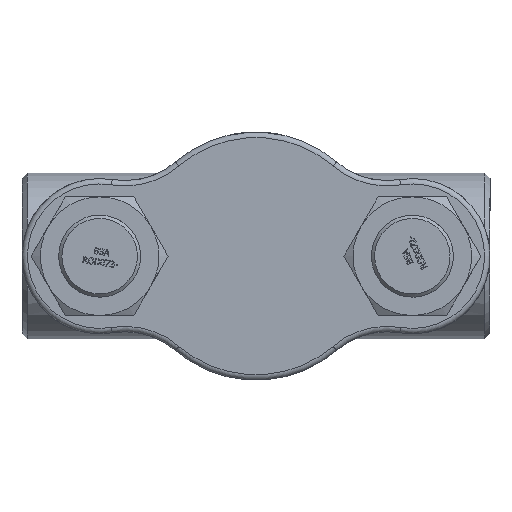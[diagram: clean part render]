
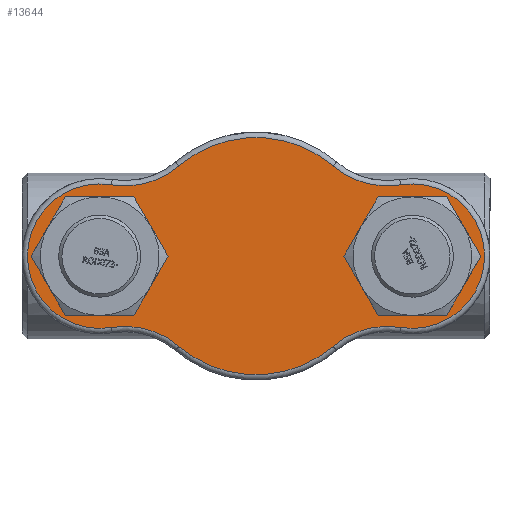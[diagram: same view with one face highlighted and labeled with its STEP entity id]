
A CAD part, front view. The second image highlights one B-rep face of the part: STEP entity #13644.
In plain terms, the highlighted planar face has unit normal (0, -1, 0) as drawn and (0, 0, -1) by its records, which use the part's own axes.
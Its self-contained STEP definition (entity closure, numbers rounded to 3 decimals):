
#3564=PLANE('',#14533);
#3953=FACE_BOUND('',#4844,.T.);
#3954=FACE_BOUND('',#4845,.T.);
#4043=FACE_OUTER_BOUND('',#4843,.T.);
#4843=EDGE_LOOP('',(#9415,#9416,#9417,#9418,#9419,#9420,#9421,#9422));
#4844=EDGE_LOOP('',(#9423));
#4845=EDGE_LOOP('',(#9424));
#5731=CIRCLE('',#14532,45.);
#5732=CIRCLE('',#14534,67.);
#5733=CIRCLE('',#14535,77.);
#5734=CIRCLE('',#14536,110.);
#5735=CIRCLE('',#14537,77.);
#5736=CIRCLE('',#14538,67.);
#5737=CIRCLE('',#14539,77.);
#5738=CIRCLE('',#14540,110.);
#5739=CIRCLE('',#14541,77.);
#5740=CIRCLE('',#14542,45.);
#5915=VERTEX_POINT('',#17850);
#5916=VERTEX_POINT('',#17853);
#5917=VERTEX_POINT('',#17854);
#5918=VERTEX_POINT('',#17856);
#5919=VERTEX_POINT('',#17858);
#5920=VERTEX_POINT('',#17860);
#5921=VERTEX_POINT('',#17862);
#5922=VERTEX_POINT('',#17864);
#5923=VERTEX_POINT('',#17866);
#5924=VERTEX_POINT('',#17869);
#7309=EDGE_CURVE('',#5915,#5915,#5731,.T.);
#7310=EDGE_CURVE('',#5916,#5917,#5732,.T.);
#7311=EDGE_CURVE('',#5918,#5916,#5733,.T.);
#7312=EDGE_CURVE('',#5919,#5918,#5734,.T.);
#7313=EDGE_CURVE('',#5920,#5919,#5735,.T.);
#7314=EDGE_CURVE('',#5921,#5920,#5736,.T.);
#7315=EDGE_CURVE('',#5922,#5921,#5737,.T.);
#7316=EDGE_CURVE('',#5923,#5922,#5738,.T.);
#7317=EDGE_CURVE('',#5917,#5923,#5739,.T.);
#7318=EDGE_CURVE('',#5924,#5924,#5740,.T.);
#9415=ORIENTED_EDGE('',*,*,#7310,.F.);
#9416=ORIENTED_EDGE('',*,*,#7311,.F.);
#9417=ORIENTED_EDGE('',*,*,#7312,.F.);
#9418=ORIENTED_EDGE('',*,*,#7313,.F.);
#9419=ORIENTED_EDGE('',*,*,#7314,.F.);
#9420=ORIENTED_EDGE('',*,*,#7315,.F.);
#9421=ORIENTED_EDGE('',*,*,#7316,.F.);
#9422=ORIENTED_EDGE('',*,*,#7317,.F.);
#9423=ORIENTED_EDGE('',*,*,#7318,.F.);
#9424=ORIENTED_EDGE('',*,*,#7309,.F.);
#13644=ADVANCED_FACE('',(#4043,#3953,#3954),#3564,.F.);
#14532=AXIS2_PLACEMENT_3D('',#17851,#15244,#15245);
#14533=AXIS2_PLACEMENT_3D('',#17852,#15246,#15247);
#14534=AXIS2_PLACEMENT_3D('',#17855,#15248,#15249);
#14535=AXIS2_PLACEMENT_3D('',#17857,#15250,#15251);
#14536=AXIS2_PLACEMENT_3D('',#17859,#15252,#15253);
#14537=AXIS2_PLACEMENT_3D('',#17861,#15254,#15255);
#14538=AXIS2_PLACEMENT_3D('',#17863,#15256,#15257);
#14539=AXIS2_PLACEMENT_3D('',#17865,#15258,#15259);
#14540=AXIS2_PLACEMENT_3D('',#17867,#15260,#15261);
#14541=AXIS2_PLACEMENT_3D('',#17868,#15262,#15263);
#14542=AXIS2_PLACEMENT_3D('',#17870,#15264,#15265);
#15244=DIRECTION('center_axis',(0.,0.,-1.));
#15245=DIRECTION('ref_axis',(1.,0.,0.));
#15246=DIRECTION('center_axis',(0.,0.,1.));
#15247=DIRECTION('ref_axis',(1.,0.,0.));
#15248=DIRECTION('center_axis',(0.,0.,1.));
#15249=DIRECTION('ref_axis',(-1.,0.,0.));
#15250=DIRECTION('center_axis',(0.,0.,-1.));
#15251=DIRECTION('ref_axis',(0.269,-0.963,0.));
#15252=DIRECTION('center_axis',(0.,0.,1.));
#15253=DIRECTION('ref_axis',(0.,1.,0.));
#15254=DIRECTION('center_axis',(0.,0.,-1.));
#15255=DIRECTION('ref_axis',(-0.269,-0.963,0.));
#15256=DIRECTION('center_axis',(0.,0.,1.));
#15257=DIRECTION('ref_axis',(1.,0.,0.));
#15258=DIRECTION('center_axis',(0.,0.,-1.));
#15259=DIRECTION('ref_axis',(-0.269,0.963,0.));
#15260=DIRECTION('center_axis',(0.,0.,1.));
#15261=DIRECTION('ref_axis',(0.,-1.,0.));
#15262=DIRECTION('center_axis',(0.,0.,-1.));
#15263=DIRECTION('ref_axis',(0.269,0.963,0.));
#15264=DIRECTION('center_axis',(0.,0.,-1.));
#15265=DIRECTION('ref_axis',(1.,0.,0.));
#17850=CARTESIAN_POINT('',(100.,0.,0.));
#17851=CARTESIAN_POINT('Origin',(145.,0.,0.));
#17852=CARTESIAN_POINT('Origin',(0.,0.,0.));
#17853=CARTESIAN_POINT('',(-134.103,66.108,0.));
#17854=CARTESIAN_POINT('',(-134.103,-66.108,0.));
#17855=CARTESIAN_POINT('Origin',(-145.,0.,0.));
#17856=CARTESIAN_POINT('',(-71.517,83.578,0.));
#17857=CARTESIAN_POINT('Origin',(-121.579,142.083,0.));
#17858=CARTESIAN_POINT('',(71.517,83.578,0.));
#17859=CARTESIAN_POINT('Origin',(0.,0.,0.));
#17860=CARTESIAN_POINT('',(134.103,66.108,0.));
#17861=CARTESIAN_POINT('Origin',(121.579,142.083,0.));
#17862=CARTESIAN_POINT('',(134.103,-66.108,0.));
#17863=CARTESIAN_POINT('Origin',(145.,0.,0.));
#17864=CARTESIAN_POINT('',(71.517,-83.578,0.));
#17865=CARTESIAN_POINT('Origin',(121.579,-142.083,0.));
#17866=CARTESIAN_POINT('',(-71.517,-83.578,0.));
#17867=CARTESIAN_POINT('Origin',(0.,0.,0.));
#17868=CARTESIAN_POINT('Origin',(-121.579,-142.083,0.));
#17869=CARTESIAN_POINT('',(-190.,0.,0.));
#17870=CARTESIAN_POINT('Origin',(-145.,0.,0.));
